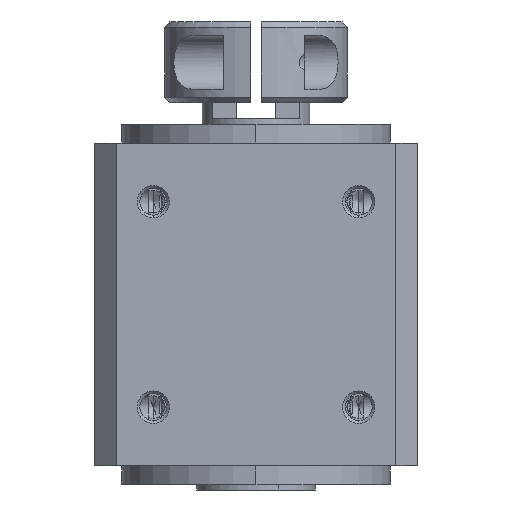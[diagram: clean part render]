
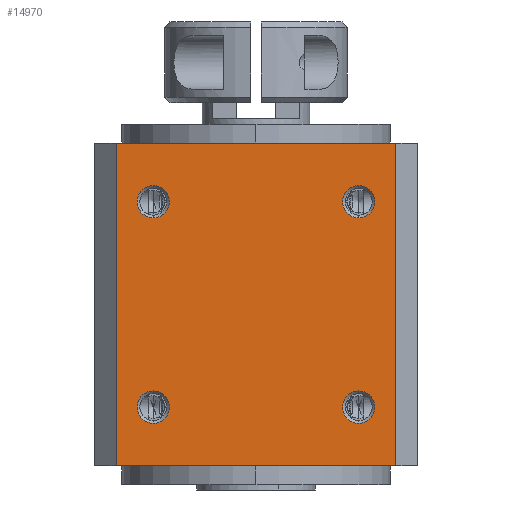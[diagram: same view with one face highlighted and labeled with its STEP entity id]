
A CAD part, left-side view. The second image highlights one B-rep face of the part: STEP entity #14970.
In plain terms, the highlighted planar face has unit normal (-1, 0, 0).
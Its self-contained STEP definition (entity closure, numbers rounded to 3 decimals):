
#13092 = EDGE_CURVE ( 'NONE', #13290, #13400, #24616, .T. ) ;
#13197 = VERTEX_POINT ( 'NONE', #24907 ) ;
#13211 = VERTEX_POINT ( 'NONE', #24873 ) ;
#13213 = EDGE_CURVE ( 'NONE', #13211, #13214, #24877, .T. ) ;
#13214 = VERTEX_POINT ( 'NONE', #24923 ) ;
#13248 = VERTEX_POINT ( 'NONE', #25045 ) ;
#13250 = EDGE_CURVE ( 'NONE', #13248, #13197, #25059, .T. ) ;
#13290 = VERTEX_POINT ( 'NONE', #24937 ) ;
#13387 = VERTEX_POINT ( 'NONE', #25282 ) ;
#13389 = EDGE_CURVE ( 'NONE', #13387, #13390, #25342, .T. ) ;
#13390 = VERTEX_POINT ( 'NONE', #25238 ) ;
#13400 = VERTEX_POINT ( 'NONE', #25359 ) ;
#14610 = EDGE_CURVE ( 'NONE', #14611, #14612, #28487, .T. ) ;
#14611 = VERTEX_POINT ( 'NONE', #28359 ) ;
#14612 = VERTEX_POINT ( 'NONE', #28358 ) ;
#14802 = VERTEX_POINT ( 'NONE', #28854 ) ;
#14804 = EDGE_CURVE ( 'NONE', #14805, #14802, #28853, .T. ) ;
#14805 = VERTEX_POINT ( 'NONE', #28849 ) ;
#14832 = ORIENTED_EDGE ( 'NONE', *, *, #13389, .F. ) ;
#14833 = ORIENTED_EDGE ( 'NONE', *, *, #14834, .F. ) ;
#14834 = EDGE_CURVE ( 'NONE', #13214, #13211, #28828, .T. ) ;
#14835 = ORIENTED_EDGE ( 'NONE', *, *, #13213, .F. ) ;
#14836 = EDGE_LOOP ( 'NONE', ( #14837, #14839 ) ) ;
#14837 = ORIENTED_EDGE ( 'NONE', *, *, #14838, .F. ) ;
#14838 = EDGE_CURVE ( 'NONE', #13197, #13248, #28824, .T. ) ;
#14839 = ORIENTED_EDGE ( 'NONE', *, *, #13250, .F. ) ;
#14840 = EDGE_LOOP ( 'NONE', ( #14841, #14842, #14844, #14845 ) ) ;
#14841 = ORIENTED_EDGE ( 'NONE', *, *, #14804, .T. ) ;
#14842 = ORIENTED_EDGE ( 'NONE', *, *, #14843, .T. ) ;
#14843 = EDGE_CURVE ( 'NONE', #14802, #14612, #28819, .T. ) ;
#14844 = ORIENTED_EDGE ( 'NONE', *, *, #14610, .F. ) ;
#14845 = ORIENTED_EDGE ( 'NONE', *, *, #14846, .T. ) ;
#14846 = EDGE_CURVE ( 'NONE', #14611, #14805, #28815, .T. ) ;
#14940 = EDGE_CURVE ( 'NONE', #13400, #13290, #28949, .T. ) ;
#14941 = ORIENTED_EDGE ( 'NONE', *, *, #13092, .F. ) ;
#14942 = EDGE_LOOP ( 'NONE', ( #14943, #14832 ) ) ;
#14943 = ORIENTED_EDGE ( 'NONE', *, *, #14944, .F. ) ;
#14944 = EDGE_CURVE ( 'NONE', #13390, #13387, #28945, .T. ) ;
#14945 = EDGE_LOOP ( 'NONE', ( #14833, #14835 ) ) ;
#14970 = ADVANCED_FACE ( 'NONE', ( #28996, #28995, #28994, #28993, #28992 ), #28991, .F. ) ;
#14971 = EDGE_LOOP ( 'NONE', ( #14972, #14941 ) ) ;
#14972 = ORIENTED_EDGE ( 'NONE', *, *, #14940, .F. ) ;
#24612 = DIRECTION ( 'NONE',  ( 0., 0., 1. ) ) ;
#24613 = DIRECTION ( 'NONE',  ( -1., 0., 0. ) ) ;
#24614 = CARTESIAN_POINT ( 'NONE',  ( -30., 19.092, 10.908 ) ) ;
#24615 = AXIS2_PLACEMENT_3D ( 'NONE', #24614, #24613, #24612 ) ;
#24616 = CIRCLE ( 'NONE', #24615, 3. ) ;
#24873 = CARTESIAN_POINT ( 'NONE',  ( -30., -19.092, 46.092 ) ) ;
#24876 = CARTESIAN_POINT ( 'NONE',  ( -30., -19.092, 49.092 ) ) ;
#24877 = CIRCLE ( 'NONE', #24926, 3. ) ;
#24907 = CARTESIAN_POINT ( 'NONE',  ( -30., -19.092, 13.908 ) ) ;
#24923 = CARTESIAN_POINT ( 'NONE',  ( -30., -19.092, 52.092 ) ) ;
#24924 = DIRECTION ( 'NONE',  ( 0., 0., 1. ) ) ;
#24925 = DIRECTION ( 'NONE',  ( -1., 0., 0. ) ) ;
#24926 = AXIS2_PLACEMENT_3D ( 'NONE', #24876, #24925, #24924 ) ;
#24937 = CARTESIAN_POINT ( 'NONE',  ( -30., 19.092, 7.908 ) ) ;
#25036 = DIRECTION ( 'NONE',  ( 0., 0., 1. ) ) ;
#25037 = DIRECTION ( 'NONE',  ( -1., 0., 0. ) ) ;
#25044 = CARTESIAN_POINT ( 'NONE',  ( -30., -19.092, 10.908 ) ) ;
#25045 = CARTESIAN_POINT ( 'NONE',  ( -30., -19.092, 7.908 ) ) ;
#25058 = AXIS2_PLACEMENT_3D ( 'NONE', #25044, #25037, #25036 ) ;
#25059 = CIRCLE ( 'NONE', #25058, 3. ) ;
#25238 = CARTESIAN_POINT ( 'NONE',  ( -30., 19.092, 52.092 ) ) ;
#25239 = DIRECTION ( 'NONE',  ( 0., 0., 1. ) ) ;
#25282 = CARTESIAN_POINT ( 'NONE',  ( -30., 19.092, 46.092 ) ) ;
#25339 = DIRECTION ( 'NONE',  ( -1., 0., 0. ) ) ;
#25340 = CARTESIAN_POINT ( 'NONE',  ( -30., 19.092, 49.092 ) ) ;
#25341 = AXIS2_PLACEMENT_3D ( 'NONE', #25340, #25339, #25239 ) ;
#25342 = CIRCLE ( 'NONE', #25341, 3. ) ;
#25359 = CARTESIAN_POINT ( 'NONE',  ( -30., 19.092, 13.908 ) ) ;
#28358 = CARTESIAN_POINT ( 'NONE',  ( -30., -26., 60. ) ) ;
#28359 = CARTESIAN_POINT ( 'NONE',  ( -30., 26., 60. ) ) ;
#28487 = LINE ( 'NONE', #28495, #28494 ) ;
#28493 = DIRECTION ( 'NONE',  ( 0., -1., 0. ) ) ;
#28494 = VECTOR ( 'NONE', #28493, 1000. ) ;
#28495 = CARTESIAN_POINT ( 'NONE',  ( -30., 30., 60. ) ) ;
#28812 = DIRECTION ( 'NONE',  ( 0., 0., -1. ) ) ;
#28813 = VECTOR ( 'NONE', #28812, 1000. ) ;
#28814 = CARTESIAN_POINT ( 'NONE',  ( -30., 26., 60. ) ) ;
#28815 = LINE ( 'NONE', #28814, #28813 ) ;
#28816 = DIRECTION ( 'NONE',  ( 0., 0., 1. ) ) ;
#28817 = VECTOR ( 'NONE', #28816, 1000. ) ;
#28818 = CARTESIAN_POINT ( 'NONE',  ( -30., -26., 60. ) ) ;
#28819 = LINE ( 'NONE', #28818, #28817 ) ;
#28820 = DIRECTION ( 'NONE',  ( 0., 0., 1. ) ) ;
#28821 = DIRECTION ( 'NONE',  ( -1., 0., 0. ) ) ;
#28822 = CARTESIAN_POINT ( 'NONE',  ( -30., -19.092, 10.908 ) ) ;
#28823 = AXIS2_PLACEMENT_3D ( 'NONE', #28822, #28821, #28820 ) ;
#28824 = CIRCLE ( 'NONE', #28823, 3. ) ;
#28825 = DIRECTION ( 'NONE',  ( 0., 0., 1. ) ) ;
#28826 = DIRECTION ( 'NONE',  ( -1., 0., 0. ) ) ;
#28827 = AXIS2_PLACEMENT_3D ( 'NONE', #28832, #28826, #28825 ) ;
#28828 = CIRCLE ( 'NONE', #28827, 3. ) ;
#28832 = CARTESIAN_POINT ( 'NONE',  ( -30., -19.092, 49.092 ) ) ;
#28849 = CARTESIAN_POINT ( 'NONE',  ( -30., 26., 0. ) ) ;
#28850 = DIRECTION ( 'NONE',  ( 0., -1., 0. ) ) ;
#28851 = VECTOR ( 'NONE', #28850, 1000. ) ;
#28852 = CARTESIAN_POINT ( 'NONE',  ( -30., 30., 0. ) ) ;
#28853 = LINE ( 'NONE', #28852, #28851 ) ;
#28854 = CARTESIAN_POINT ( 'NONE',  ( -30., -26., 0. ) ) ;
#28941 = DIRECTION ( 'NONE',  ( 0., 0., 1. ) ) ;
#28942 = DIRECTION ( 'NONE',  ( -1., 0., 0. ) ) ;
#28943 = CARTESIAN_POINT ( 'NONE',  ( -30., 19.092, 49.092 ) ) ;
#28944 = AXIS2_PLACEMENT_3D ( 'NONE', #28943, #28942, #28941 ) ;
#28945 = CIRCLE ( 'NONE', #28944, 3. ) ;
#28946 = DIRECTION ( 'NONE',  ( 0., 0., 1. ) ) ;
#28947 = DIRECTION ( 'NONE',  ( -1., 0., 0. ) ) ;
#28948 = AXIS2_PLACEMENT_3D ( 'NONE', #28953, #28947, #28946 ) ;
#28949 = CIRCLE ( 'NONE', #28948, 3. ) ;
#28953 = CARTESIAN_POINT ( 'NONE',  ( -30., 19.092, 10.908 ) ) ;
#28990 = AXIS2_PLACEMENT_3D ( 'NONE', #29031, #29030, #29029 ) ;
#28991 = PLANE ( 'NONE',  #28990 ) ;
#28992 = FACE_OUTER_BOUND ( 'NONE', #14840, .T. ) ;
#28993 = FACE_BOUND ( 'NONE', #14836, .T. ) ;
#28994 = FACE_BOUND ( 'NONE', #14945, .T. ) ;
#28995 = FACE_BOUND ( 'NONE', #14942, .T. ) ;
#28996 = FACE_BOUND ( 'NONE', #14971, .T. ) ;
#29029 = DIRECTION ( 'NONE',  ( 0., 1., 0. ) ) ;
#29030 = DIRECTION ( 'NONE',  ( 1., 0., 0. ) ) ;
#29031 = CARTESIAN_POINT ( 'NONE',  ( -30., 30., 60. ) ) ;
